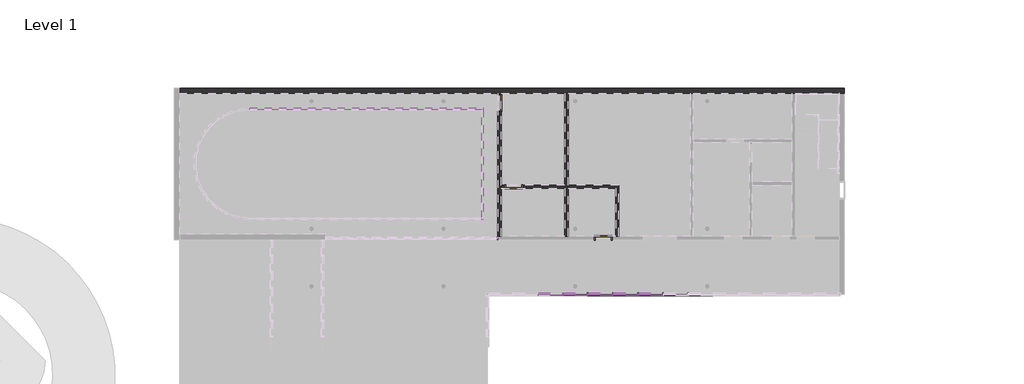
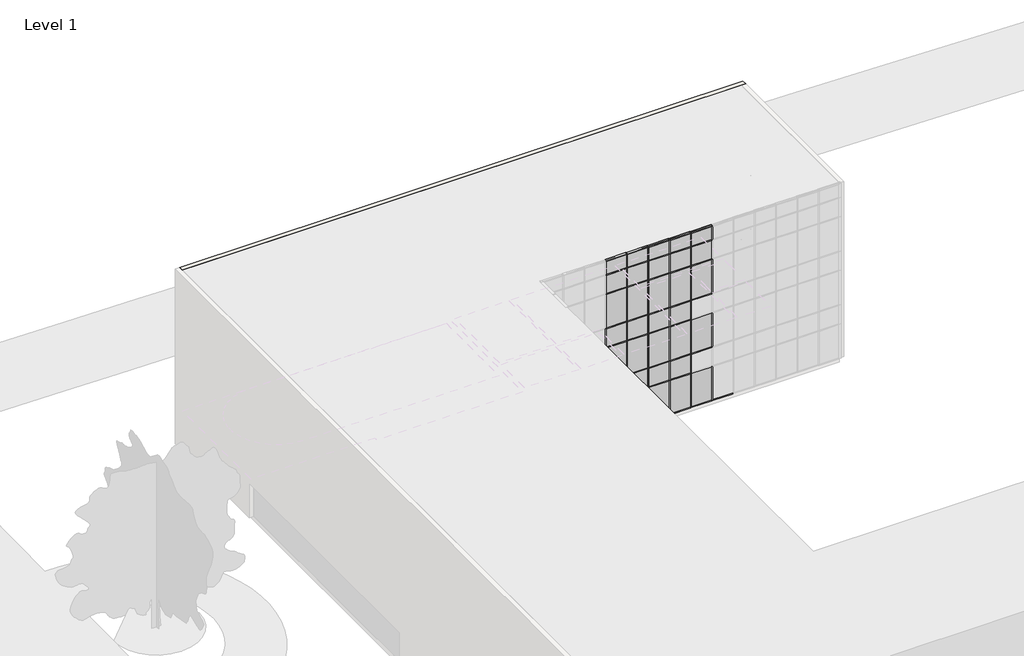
# One storey, part 15 of 27: 77 members, 34 plates, 7 walls, 3 doors.
"""IFC4 building model written with IfcOpenShell, lengths in millimetres."""

from ifc_helpers import new_model, si_unit, origin, origin_with_axes, place, context, project, spatial, polyline, outline, extrude, faceted_brep, transform, mapped, element, save
from components import door_0915mm_x_2134mm_2aa27b83, door_0915mm_x_2134mm_3fa07aa3, rectangular_mullion_50mm_x_150mm_550cda47, rectangular_mullion_50mm_x_150mm_0f59f38f, rectangular_mullion_50mm_x_150mm_22af440f, rectangular_mullion_50mm_x_150mm_5a36e067, rectangular_mullion_50mm_x_150mm_73e7bd4c, rectangular_mullion_50mm_x_150mm_bbc1c4ea, rectangular_mullion_50mm_x_150mm_36202a7c, rectangular_mullion_50mm_x_150mm_84717ec5, system_panel_glazed_6032f2be, system_panel_glazed_cd6fe77c, system_panel_solid_87c6c2f1, system_panel_solid_e0f9033a

model = new_model("IFC4")

# Units and contexts
model_context = context("Model", 3, world=origin())
ifc_project = project(units=[si_unit("LENGTHUNIT", "METRE", prefix="MILLI")], contexts=[model_context])

# Site, building, storey
site = spatial("IfcSite", under=ifc_project)
building = spatial("IfcBuilding", under=site)
storey = spatial("IfcBuildingStorey", under=building, Name="Level 1", Elevation=0.0)

# Doors
placement = place(None, origin())
door_0915mm_x_2134mm_shape = door_0915mm_x_2134mm_2aa27b83(model_context)
element("IfcDoor", 1, ObjectType="m-doors-hm-f1-a : 0915mm x 2134mm", at=placement, inside=storey, context=model_context, shape_type="MappedRepresentation", body=[
    mapped(door_0915mm_x_2134mm_shape, transform((8314.5010724, 30269.5799804, 0.0), x_axis=(0.0, -1.0, 0.0), y_axis=(1.0, 0.0, 0.0), z_axis=(0.0, 0.0, 1.0))),
])
element("IfcDoor", 2, ObjectType="m-doors-hm-f1-a : 0915mm x 2134mm", at=placement, inside=storey, context=model_context, shape_type="MappedRepresentation", body=[
    mapped(door_0915mm_x_2134mm_shape, transform((14023.5010724, 22787.5799804, 0.0), x_axis=(1.0, 0.0, 0.0), y_axis=(0.0, 1.0, 0.0), z_axis=(0.0, 0.0, 1.0))),
])
door_0915mm_x_2134mm_2_shape = door_0915mm_x_2134mm_3fa07aa3(model_context)
element("IfcDoor", 3, ObjectType="m-doors-hm-f1-a : 0915mm x 2134mm", at=placement, inside=storey, context=model_context, shape_type="MappedRepresentation", body=[
    mapped(door_0915mm_x_2134mm_2_shape, transform((8939.5010724, 25345.5799804, 0.0), x_axis=(1.0, 0.0, 0.0), y_axis=(0.0, 1.0, 0.0), z_axis=(0.0, 0.0, 1.0))),
])

# Members
rectangular_mullion_50mm_x_150mm_shape = rectangular_mullion_50mm_x_150mm_550cda47(model_context)
element("IfcMember", 4, ObjectType="Rectangular Mullion : 50mm x 150mm", at=placement, inside=storey, context=model_context, shape_type="MappedRepresentation", body=[
    mapped(rectangular_mullion_50mm_x_150mm_shape, transform((8047.5010724, 22595.5799804, 2235.0), x_axis=(1.0, 0.0, 0.0), y_axis=(0.0, 1.0, 0.0), z_axis=(0.0, 0.0, 1.0))),
])
rectangular_mullion_50mm_x_150mm_2_shape = rectangular_mullion_50mm_x_150mm_0f59f38f(model_context)
element("IfcMember", 5, ObjectType="Rectangular Mullion : 50mm x 150mm", at=placement, inside=storey, context=model_context, shape_type="MappedRepresentation", body=[
    mapped(rectangular_mullion_50mm_x_150mm_2_shape, transform((8047.5010724, 22595.5799804, 3550.0), x_axis=(1.0, 0.0, 0.0), y_axis=(0.0, 1.0, 0.0), z_axis=(0.0, 0.0, 1.0))),
])
rectangular_mullion_50mm_x_150mm_3_shape = rectangular_mullion_50mm_x_150mm_22af440f(model_context)
element("IfcMember", 6, ObjectType="Rectangular Mullion : 50mm x 150mm", at=placement, inside=storey, context=model_context, shape_type="MappedRepresentation", body=[
    mapped(rectangular_mullion_50mm_x_150mm_3_shape, transform((8047.5010724, 22595.5799804, 2135.0), x_axis=(1.0, 0.0, 0.0), y_axis=(0.0, 1.0, 0.0), z_axis=(0.0, 0.0, 1.0))),
])
rectangular_mullion_50mm_x_150mm_4_shape = rectangular_mullion_50mm_x_150mm_5a36e067(model_context)
element("IfcMember", 7, ObjectType="Rectangular Mullion : 50mm x 150mm", at=placement, inside=storey, context=model_context, shape_type="MappedRepresentation", body=[
    mapped(rectangular_mullion_50mm_x_150mm_4_shape, transform((13126.615026, 19414.8392059, 12400.0), x_axis=(0.0, 0.0, 1.0), y_axis=(0.0, -1.0, 0.0), z_axis=(1.0, 0.0, 0.0))),
])
element("IfcMember", 8, ObjectType="Rectangular Mullion : 50mm x 150mm", at=placement, inside=storey, context=model_context, shape_type="MappedRepresentation", body=[
    mapped(rectangular_mullion_50mm_x_150mm_4_shape, transform((14552.6435143, 19414.8392059, 12400.0), x_axis=(0.0, 0.0, 1.0), y_axis=(0.0, -1.0, 0.0), z_axis=(1.0, 0.0, 0.0))),
])
element("IfcMember", 9, ObjectType="Rectangular Mullion : 50mm x 150mm", at=placement, inside=storey, context=model_context, shape_type="MappedRepresentation", body=[
    mapped(rectangular_mullion_50mm_x_150mm_4_shape, transform((15978.6720027, 19414.8392059, 12400.0), x_axis=(0.0, 0.0, 1.0), y_axis=(0.0, -1.0, 0.0), z_axis=(1.0, 0.0, 0.0))),
])
element("IfcMember", 10, ObjectType="Rectangular Mullion : 50mm x 150mm", at=placement, inside=storey, context=model_context, shape_type="MappedRepresentation", body=[
    mapped(rectangular_mullion_50mm_x_150mm_4_shape, transform((17404.700491, 19414.8392059, 12400.0), x_axis=(0.0, 0.0, 1.0), y_axis=(0.0, -1.0, 0.0), z_axis=(1.0, 0.0, 0.0))),
])
element("IfcMember", 11, ObjectType="Rectangular Mullion : 50mm x 150mm", at=placement, inside=storey, context=model_context, shape_type="MappedRepresentation", body=[
    mapped(rectangular_mullion_50mm_x_150mm_4_shape, transform((18830.7289793, 19414.8392059, 12400.0), x_axis=(0.0, 0.0, 1.0), y_axis=(0.0, -1.0, 0.0), z_axis=(1.0, 0.0, 0.0))),
])
element("IfcMember", 12, ObjectType="Rectangular Mullion : 50mm x 150mm", at=placement, inside=storey, context=model_context, shape_type="MappedRepresentation", body=[
    mapped(rectangular_mullion_50mm_x_150mm_4_shape, transform((13176.615026, 19414.8392059, 0.0), x_axis=(0.0, 0.0, -1.0), y_axis=(0.0, -1.0, 0.0), z_axis=(-1.0, 0.0, 0.0))),
])
element("IfcMember", 13, ObjectType="Rectangular Mullion : 50mm x 150mm", at=placement, inside=storey, context=model_context, shape_type="MappedRepresentation", body=[
    mapped(rectangular_mullion_50mm_x_150mm_4_shape, transform((14602.6435143, 19414.8392059, 0.0), x_axis=(0.0, 0.0, -1.0), y_axis=(0.0, -1.0, 0.0), z_axis=(-1.0, 0.0, 0.0))),
])
element("IfcMember", 14, ObjectType="Rectangular Mullion : 50mm x 150mm", at=placement, inside=storey, context=model_context, shape_type="MappedRepresentation", body=[
    mapped(rectangular_mullion_50mm_x_150mm_4_shape, transform((16028.6720027, 19414.8392059, 0.0), x_axis=(0.0, 0.0, -1.0), y_axis=(0.0, -1.0, 0.0), z_axis=(-1.0, 0.0, 0.0))),
])
element("IfcMember", 15, ObjectType="Rectangular Mullion : 50mm x 150mm", at=placement, inside=storey, context=model_context, shape_type="MappedRepresentation", body=[
    mapped(rectangular_mullion_50mm_x_150mm_4_shape, transform((17454.700491, 19414.8392059, 0.0), x_axis=(0.0, 0.0, -1.0), y_axis=(0.0, -1.0, 0.0), z_axis=(-1.0, 0.0, 0.0))),
])
element("IfcMember", 16, ObjectType="Rectangular Mullion : 50mm x 150mm", at=placement, inside=storey, context=model_context, shape_type="MappedRepresentation", body=[
    mapped(rectangular_mullion_50mm_x_150mm_4_shape, transform((18880.7289793, 19414.8392059, 0.0), x_axis=(0.0, 0.0, -1.0), y_axis=(0.0, -1.0, 0.0), z_axis=(-1.0, 0.0, 0.0))),
])
rectangular_mullion_50mm_x_150mm_5_shape = rectangular_mullion_50mm_x_150mm_73e7bd4c(model_context)
element("IfcMember", 17, ObjectType="Rectangular Mullion : 50mm x 150mm", at=placement, inside=storey, context=model_context, shape_type="MappedRepresentation", body=[
    mapped(rectangular_mullion_50mm_x_150mm_5_shape, transform((13126.615026, 19414.8392059, 3800.0), x_axis=(0.0, 0.0, 1.0), y_axis=(0.0, -1.0, 0.0), z_axis=(1.0, 0.0, 0.0))),
])
element("IfcMember", 18, ObjectType="Rectangular Mullion : 50mm x 150mm", at=placement, inside=storey, context=model_context, shape_type="MappedRepresentation", body=[
    mapped(rectangular_mullion_50mm_x_150mm_5_shape, transform((14552.6435143, 19414.8392059, 3800.0), x_axis=(0.0, 0.0, 1.0), y_axis=(0.0, -1.0, 0.0), z_axis=(1.0, 0.0, 0.0))),
])
element("IfcMember", 19, ObjectType="Rectangular Mullion : 50mm x 150mm", at=placement, inside=storey, context=model_context, shape_type="MappedRepresentation", body=[
    mapped(rectangular_mullion_50mm_x_150mm_5_shape, transform((15978.6720027, 19414.8392059, 3800.0), x_axis=(0.0, 0.0, 1.0), y_axis=(0.0, -1.0, 0.0), z_axis=(1.0, 0.0, 0.0))),
])
element("IfcMember", 20, ObjectType="Rectangular Mullion : 50mm x 150mm", at=placement, inside=storey, context=model_context, shape_type="MappedRepresentation", body=[
    mapped(rectangular_mullion_50mm_x_150mm_5_shape, transform((17404.700491, 19414.8392059, 3800.0), x_axis=(0.0, 0.0, 1.0), y_axis=(0.0, -1.0, 0.0), z_axis=(1.0, 0.0, 0.0))),
])
element("IfcMember", 21, ObjectType="Rectangular Mullion : 50mm x 150mm", at=placement, inside=storey, context=model_context, shape_type="MappedRepresentation", body=[
    mapped(rectangular_mullion_50mm_x_150mm_5_shape, transform((18830.7289793, 19414.8392059, 3800.0), x_axis=(0.0, 0.0, 1.0), y_axis=(0.0, -1.0, 0.0), z_axis=(1.0, 0.0, 0.0))),
])
element("IfcMember", 22, ObjectType="Rectangular Mullion : 50mm x 150mm", at=placement, inside=storey, context=model_context, shape_type="MappedRepresentation", body=[
    mapped(rectangular_mullion_50mm_x_150mm_5_shape, transform((13126.615026, 19414.8392059, 7600.0), x_axis=(0.0, 0.0, 1.0), y_axis=(0.0, -1.0, 0.0), z_axis=(1.0, 0.0, 0.0))),
])
element("IfcMember", 23, ObjectType="Rectangular Mullion : 50mm x 150mm", at=placement, inside=storey, context=model_context, shape_type="MappedRepresentation", body=[
    mapped(rectangular_mullion_50mm_x_150mm_5_shape, transform((14552.6435143, 19414.8392059, 7600.0), x_axis=(0.0, 0.0, 1.0), y_axis=(0.0, -1.0, 0.0), z_axis=(1.0, 0.0, 0.0))),
])
element("IfcMember", 24, ObjectType="Rectangular Mullion : 50mm x 150mm", at=placement, inside=storey, context=model_context, shape_type="MappedRepresentation", body=[
    mapped(rectangular_mullion_50mm_x_150mm_5_shape, transform((15978.6720027, 19414.8392059, 7600.0), x_axis=(0.0, 0.0, 1.0), y_axis=(0.0, -1.0, 0.0), z_axis=(1.0, 0.0, 0.0))),
])
element("IfcMember", 25, ObjectType="Rectangular Mullion : 50mm x 150mm", at=placement, inside=storey, context=model_context, shape_type="MappedRepresentation", body=[
    mapped(rectangular_mullion_50mm_x_150mm_5_shape, transform((17404.700491, 19414.8392059, 7600.0), x_axis=(0.0, 0.0, 1.0), y_axis=(0.0, -1.0, 0.0), z_axis=(1.0, 0.0, 0.0))),
])
element("IfcMember", 26, ObjectType="Rectangular Mullion : 50mm x 150mm", at=placement, inside=storey, context=model_context, shape_type="MappedRepresentation", body=[
    mapped(rectangular_mullion_50mm_x_150mm_5_shape, transform((18830.7289793, 19414.8392059, 7600.0), x_axis=(0.0, 0.0, 1.0), y_axis=(0.0, -1.0, 0.0), z_axis=(1.0, 0.0, 0.0))),
])
element("IfcMember", 27, ObjectType="Rectangular Mullion : 50mm x 150mm", at=placement, inside=storey, context=model_context, shape_type="MappedRepresentation", body=[
    mapped(rectangular_mullion_50mm_x_150mm_5_shape, transform((13126.615026, 19414.8392059, 11400.0), x_axis=(0.0, 0.0, 1.0), y_axis=(0.0, -1.0, 0.0), z_axis=(1.0, 0.0, 0.0))),
])
element("IfcMember", 28, ObjectType="Rectangular Mullion : 50mm x 150mm", at=placement, inside=storey, context=model_context, shape_type="MappedRepresentation", body=[
    mapped(rectangular_mullion_50mm_x_150mm_5_shape, transform((14552.6435143, 19414.8392059, 11400.0), x_axis=(0.0, 0.0, 1.0), y_axis=(0.0, -1.0, 0.0), z_axis=(1.0, 0.0, 0.0))),
])
element("IfcMember", 29, ObjectType="Rectangular Mullion : 50mm x 150mm", at=placement, inside=storey, context=model_context, shape_type="MappedRepresentation", body=[
    mapped(rectangular_mullion_50mm_x_150mm_5_shape, transform((15978.6720027, 19414.8392059, 11400.0), x_axis=(0.0, 0.0, 1.0), y_axis=(0.0, -1.0, 0.0), z_axis=(1.0, 0.0, 0.0))),
])
element("IfcMember", 30, ObjectType="Rectangular Mullion : 50mm x 150mm", at=placement, inside=storey, context=model_context, shape_type="MappedRepresentation", body=[
    mapped(rectangular_mullion_50mm_x_150mm_5_shape, transform((17404.700491, 19414.8392059, 11400.0), x_axis=(0.0, 0.0, 1.0), y_axis=(0.0, -1.0, 0.0), z_axis=(1.0, 0.0, 0.0))),
])
element("IfcMember", 31, ObjectType="Rectangular Mullion : 50mm x 150mm", at=placement, inside=storey, context=model_context, shape_type="MappedRepresentation", body=[
    mapped(rectangular_mullion_50mm_x_150mm_5_shape, transform((18830.7289793, 19414.8392059, 11400.0), x_axis=(0.0, 0.0, 1.0), y_axis=(0.0, -1.0, 0.0), z_axis=(1.0, 0.0, 0.0))),
])
element("IfcMember", 32, ObjectType="Rectangular Mullion : 50mm x 150mm", at=placement, inside=storey, context=model_context, shape_type="MappedRepresentation", body=[
    mapped(rectangular_mullion_50mm_x_150mm_5_shape, transform((13126.615026, 19414.8392059, 10040.0), x_axis=(0.0, 0.0, 1.0), y_axis=(0.0, -1.0, 0.0), z_axis=(1.0, 0.0, 0.0))),
])
element("IfcMember", 33, ObjectType="Rectangular Mullion : 50mm x 150mm", at=placement, inside=storey, context=model_context, shape_type="MappedRepresentation", body=[
    mapped(rectangular_mullion_50mm_x_150mm_5_shape, transform((14552.6435143, 19414.8392059, 10040.0), x_axis=(0.0, 0.0, 1.0), y_axis=(0.0, -1.0, 0.0), z_axis=(1.0, 0.0, 0.0))),
])
element("IfcMember", 34, ObjectType="Rectangular Mullion : 50mm x 150mm", at=placement, inside=storey, context=model_context, shape_type="MappedRepresentation", body=[
    mapped(rectangular_mullion_50mm_x_150mm_5_shape, transform((15978.6720027, 19414.8392059, 10040.0), x_axis=(0.0, 0.0, 1.0), y_axis=(0.0, -1.0, 0.0), z_axis=(1.0, 0.0, 0.0))),
])
element("IfcMember", 35, ObjectType="Rectangular Mullion : 50mm x 150mm", at=placement, inside=storey, context=model_context, shape_type="MappedRepresentation", body=[
    mapped(rectangular_mullion_50mm_x_150mm_5_shape, transform((17404.700491, 19414.8392059, 10040.0), x_axis=(0.0, 0.0, 1.0), y_axis=(0.0, -1.0, 0.0), z_axis=(1.0, 0.0, 0.0))),
])
element("IfcMember", 36, ObjectType="Rectangular Mullion : 50mm x 150mm", at=placement, inside=storey, context=model_context, shape_type="MappedRepresentation", body=[
    mapped(rectangular_mullion_50mm_x_150mm_5_shape, transform((18830.7289793, 19414.8392059, 10040.0), x_axis=(0.0, 0.0, 1.0), y_axis=(0.0, -1.0, 0.0), z_axis=(1.0, 0.0, 0.0))),
])
element("IfcMember", 37, ObjectType="Rectangular Mullion : 50mm x 150mm", at=placement, inside=storey, context=model_context, shape_type="MappedRepresentation", body=[
    mapped(rectangular_mullion_50mm_x_150mm_5_shape, transform((11700.5865377, 19414.8392059, 6240.0), x_axis=(0.0, 0.0, 1.0), y_axis=(0.0, -1.0, 0.0), z_axis=(1.0, 0.0, 0.0))),
])
element("IfcMember", 38, ObjectType="Rectangular Mullion : 50mm x 150mm", at=placement, inside=storey, context=model_context, shape_type="MappedRepresentation", body=[
    mapped(rectangular_mullion_50mm_x_150mm_5_shape, transform((13126.615026, 19414.8392059, 6240.0), x_axis=(0.0, 0.0, 1.0), y_axis=(0.0, -1.0, 0.0), z_axis=(1.0, 0.0, 0.0))),
])
element("IfcMember", 39, ObjectType="Rectangular Mullion : 50mm x 150mm", at=placement, inside=storey, context=model_context, shape_type="MappedRepresentation", body=[
    mapped(rectangular_mullion_50mm_x_150mm_5_shape, transform((14552.6435143, 19414.8392059, 6240.0), x_axis=(0.0, 0.0, 1.0), y_axis=(0.0, -1.0, 0.0), z_axis=(1.0, 0.0, 0.0))),
])
element("IfcMember", 40, ObjectType="Rectangular Mullion : 50mm x 150mm", at=placement, inside=storey, context=model_context, shape_type="MappedRepresentation", body=[
    mapped(rectangular_mullion_50mm_x_150mm_5_shape, transform((15978.6720027, 19414.8392059, 6240.0), x_axis=(0.0, 0.0, 1.0), y_axis=(0.0, -1.0, 0.0), z_axis=(1.0, 0.0, 0.0))),
])
element("IfcMember", 41, ObjectType="Rectangular Mullion : 50mm x 150mm", at=placement, inside=storey, context=model_context, shape_type="MappedRepresentation", body=[
    mapped(rectangular_mullion_50mm_x_150mm_5_shape, transform((17404.700491, 19414.8392059, 6240.0), x_axis=(0.0, 0.0, 1.0), y_axis=(0.0, -1.0, 0.0), z_axis=(1.0, 0.0, 0.0))),
])
element("IfcMember", 42, ObjectType="Rectangular Mullion : 50mm x 150mm", at=placement, inside=storey, context=model_context, shape_type="MappedRepresentation", body=[
    mapped(rectangular_mullion_50mm_x_150mm_5_shape, transform((11700.5865377, 19414.8392059, 2440.0), x_axis=(0.0, 0.0, 1.0), y_axis=(0.0, -1.0, 0.0), z_axis=(1.0, 0.0, 0.0))),
])
element("IfcMember", 43, ObjectType="Rectangular Mullion : 50mm x 150mm", at=placement, inside=storey, context=model_context, shape_type="MappedRepresentation", body=[
    mapped(rectangular_mullion_50mm_x_150mm_5_shape, transform((13126.615026, 19414.8392059, 2440.0), x_axis=(0.0, 0.0, 1.0), y_axis=(0.0, -1.0, 0.0), z_axis=(1.0, 0.0, 0.0))),
])
element("IfcMember", 44, ObjectType="Rectangular Mullion : 50mm x 150mm", at=placement, inside=storey, context=model_context, shape_type="MappedRepresentation", body=[
    mapped(rectangular_mullion_50mm_x_150mm_5_shape, transform((14552.6435143, 19414.8392059, 2440.0), x_axis=(0.0, 0.0, 1.0), y_axis=(0.0, -1.0, 0.0), z_axis=(1.0, 0.0, 0.0))),
])
element("IfcMember", 45, ObjectType="Rectangular Mullion : 50mm x 150mm", at=placement, inside=storey, context=model_context, shape_type="MappedRepresentation", body=[
    mapped(rectangular_mullion_50mm_x_150mm_5_shape, transform((15978.6720027, 19414.8392059, 2440.0), x_axis=(0.0, 0.0, 1.0), y_axis=(0.0, -1.0, 0.0), z_axis=(1.0, 0.0, 0.0))),
])
element("IfcMember", 46, ObjectType="Rectangular Mullion : 50mm x 150mm", at=placement, inside=storey, context=model_context, shape_type="MappedRepresentation", body=[
    mapped(rectangular_mullion_50mm_x_150mm_5_shape, transform((17404.700491, 19414.8392059, 2440.0), x_axis=(0.0, 0.0, 1.0), y_axis=(0.0, -1.0, 0.0), z_axis=(1.0, 0.0, 0.0))),
])
rectangular_mullion_50mm_x_150mm_6_shape = rectangular_mullion_50mm_x_150mm_bbc1c4ea(model_context)
element("IfcMember", 47, ObjectType="Rectangular Mullion : 50mm x 150mm", at=placement, inside=storey, context=model_context, shape_type="MappedRepresentation", body=[
    mapped(rectangular_mullion_50mm_x_150mm_6_shape, transform((13151.615026, 19414.8392059, 11400.0), x_axis=(1.0, 0.0, 0.0), y_axis=(0.0, -1.0, 0.0), z_axis=(0.0, 0.0, -1.0))),
])
element("IfcMember", 48, ObjectType="Rectangular Mullion : 50mm x 150mm", at=placement, inside=storey, context=model_context, shape_type="MappedRepresentation", body=[
    mapped(rectangular_mullion_50mm_x_150mm_6_shape, transform((14577.6435143, 19414.8392059, 11400.0), x_axis=(1.0, 0.0, 0.0), y_axis=(0.0, -1.0, 0.0), z_axis=(0.0, 0.0, -1.0))),
])
element("IfcMember", 49, ObjectType="Rectangular Mullion : 50mm x 150mm", at=placement, inside=storey, context=model_context, shape_type="MappedRepresentation", body=[
    mapped(rectangular_mullion_50mm_x_150mm_6_shape, transform((16003.6720027, 19414.8392059, 11400.0), x_axis=(1.0, 0.0, 0.0), y_axis=(0.0, -1.0, 0.0), z_axis=(0.0, 0.0, -1.0))),
])
element("IfcMember", 50, ObjectType="Rectangular Mullion : 50mm x 150mm", at=placement, inside=storey, context=model_context, shape_type="MappedRepresentation", body=[
    mapped(rectangular_mullion_50mm_x_150mm_6_shape, transform((17429.700491, 19414.8392059, 11400.0), x_axis=(1.0, 0.0, 0.0), y_axis=(0.0, -1.0, 0.0), z_axis=(0.0, 0.0, -1.0))),
])
element("IfcMember", 51, ObjectType="Rectangular Mullion : 50mm x 150mm", at=placement, inside=storey, context=model_context, shape_type="MappedRepresentation", body=[
    mapped(rectangular_mullion_50mm_x_150mm_6_shape, transform((18855.7289793, 19414.8392059, 11400.0), x_axis=(1.0, 0.0, 0.0), y_axis=(0.0, -1.0, 0.0), z_axis=(0.0, 0.0, -1.0))),
])
rectangular_mullion_50mm_x_150mm_7_shape = rectangular_mullion_50mm_x_150mm_36202a7c(model_context)
element("IfcMember", 52, ObjectType="Rectangular Mullion : 50mm x 150mm", at=placement, inside=storey, context=model_context, shape_type="MappedRepresentation", body=[
    mapped(rectangular_mullion_50mm_x_150mm_7_shape, transform((13151.615026, 19414.8392059, 0.0), x_axis=(1.0, 0.0, 0.0), y_axis=(0.0, -1.0, 0.0), z_axis=(0.0, 0.0, -1.0))),
])
element("IfcMember", 53, ObjectType="Rectangular Mullion : 50mm x 150mm", at=placement, inside=storey, context=model_context, shape_type="MappedRepresentation", body=[
    mapped(rectangular_mullion_50mm_x_150mm_7_shape, transform((14577.6435143, 19414.8392059, 0.0), x_axis=(1.0, 0.0, 0.0), y_axis=(0.0, -1.0, 0.0), z_axis=(0.0, 0.0, -1.0))),
])
element("IfcMember", 54, ObjectType="Rectangular Mullion : 50mm x 150mm", at=placement, inside=storey, context=model_context, shape_type="MappedRepresentation", body=[
    mapped(rectangular_mullion_50mm_x_150mm_7_shape, transform((16003.6720027, 19414.8392059, 0.0), x_axis=(1.0, 0.0, 0.0), y_axis=(0.0, -1.0, 0.0), z_axis=(0.0, 0.0, -1.0))),
])
element("IfcMember", 55, ObjectType="Rectangular Mullion : 50mm x 150mm", at=placement, inside=storey, context=model_context, shape_type="MappedRepresentation", body=[
    mapped(rectangular_mullion_50mm_x_150mm_7_shape, transform((17429.700491, 19414.8392059, 0.0), x_axis=(1.0, 0.0, 0.0), y_axis=(0.0, -1.0, 0.0), z_axis=(0.0, 0.0, -1.0))),
])
element("IfcMember", 56, ObjectType="Rectangular Mullion : 50mm x 150mm", at=placement, inside=storey, context=model_context, shape_type="MappedRepresentation", body=[
    mapped(rectangular_mullion_50mm_x_150mm_7_shape, transform((18855.7289793, 19414.8392059, 0.0), x_axis=(1.0, 0.0, 0.0), y_axis=(0.0, -1.0, 0.0), z_axis=(0.0, 0.0, -1.0))),
])
rectangular_mullion_50mm_x_150mm_8_shape = rectangular_mullion_50mm_x_150mm_84717ec5(model_context)
element("IfcMember", 57, ObjectType="Rectangular Mullion : 50mm x 150mm", at=placement, inside=storey, context=model_context, shape_type="MappedRepresentation", body=[
    mapped(rectangular_mullion_50mm_x_150mm_8_shape, transform((13151.615026, 19414.8392059, 10040.0), x_axis=(1.0, 0.0, 0.0), y_axis=(0.0, -1.0, 0.0), z_axis=(0.0, 0.0, -1.0))),
])
element("IfcMember", 58, ObjectType="Rectangular Mullion : 50mm x 150mm", at=placement, inside=storey, context=model_context, shape_type="MappedRepresentation", body=[
    mapped(rectangular_mullion_50mm_x_150mm_8_shape, transform((14577.6435143, 19414.8392059, 10040.0), x_axis=(1.0, 0.0, 0.0), y_axis=(0.0, -1.0, 0.0), z_axis=(0.0, 0.0, -1.0))),
])
element("IfcMember", 59, ObjectType="Rectangular Mullion : 50mm x 150mm", at=placement, inside=storey, context=model_context, shape_type="MappedRepresentation", body=[
    mapped(rectangular_mullion_50mm_x_150mm_8_shape, transform((16003.6720027, 19414.8392059, 10040.0), x_axis=(1.0, 0.0, 0.0), y_axis=(0.0, -1.0, 0.0), z_axis=(0.0, 0.0, -1.0))),
])
element("IfcMember", 60, ObjectType="Rectangular Mullion : 50mm x 150mm", at=placement, inside=storey, context=model_context, shape_type="MappedRepresentation", body=[
    mapped(rectangular_mullion_50mm_x_150mm_8_shape, transform((17429.700491, 19414.8392059, 10040.0), x_axis=(1.0, 0.0, 0.0), y_axis=(0.0, -1.0, 0.0), z_axis=(0.0, 0.0, -1.0))),
])
element("IfcMember", 61, ObjectType="Rectangular Mullion : 50mm x 150mm", at=placement, inside=storey, context=model_context, shape_type="MappedRepresentation", body=[
    mapped(rectangular_mullion_50mm_x_150mm_8_shape, transform((11725.5865377, 19414.8392059, 6240.0), x_axis=(1.0, 0.0, 0.0), y_axis=(0.0, -1.0, 0.0), z_axis=(0.0, 0.0, -1.0))),
])
element("IfcMember", 62, ObjectType="Rectangular Mullion : 50mm x 150mm", at=placement, inside=storey, context=model_context, shape_type="MappedRepresentation", body=[
    mapped(rectangular_mullion_50mm_x_150mm_8_shape, transform((13151.615026, 19414.8392059, 6240.0), x_axis=(1.0, 0.0, 0.0), y_axis=(0.0, -1.0, 0.0), z_axis=(0.0, 0.0, -1.0))),
])
element("IfcMember", 63, ObjectType="Rectangular Mullion : 50mm x 150mm", at=placement, inside=storey, context=model_context, shape_type="MappedRepresentation", body=[
    mapped(rectangular_mullion_50mm_x_150mm_8_shape, transform((14577.6435143, 19414.8392059, 6240.0), x_axis=(1.0, 0.0, 0.0), y_axis=(0.0, -1.0, 0.0), z_axis=(0.0, 0.0, -1.0))),
])
element("IfcMember", 64, ObjectType="Rectangular Mullion : 50mm x 150mm", at=placement, inside=storey, context=model_context, shape_type="MappedRepresentation", body=[
    mapped(rectangular_mullion_50mm_x_150mm_8_shape, transform((16003.6720027, 19414.8392059, 6240.0), x_axis=(1.0, 0.0, 0.0), y_axis=(0.0, -1.0, 0.0), z_axis=(0.0, 0.0, -1.0))),
])
element("IfcMember", 65, ObjectType="Rectangular Mullion : 50mm x 150mm", at=placement, inside=storey, context=model_context, shape_type="MappedRepresentation", body=[
    mapped(rectangular_mullion_50mm_x_150mm_8_shape, transform((17429.700491, 19414.8392059, 6240.0), x_axis=(1.0, 0.0, 0.0), y_axis=(0.0, -1.0, 0.0), z_axis=(0.0, 0.0, -1.0))),
])
element("IfcMember", 66, ObjectType="Rectangular Mullion : 50mm x 150mm", at=placement, inside=storey, context=model_context, shape_type="MappedRepresentation", body=[
    mapped(rectangular_mullion_50mm_x_150mm_8_shape, transform((11725.5865377, 19414.8392059, 2440.0), x_axis=(1.0, 0.0, 0.0), y_axis=(0.0, -1.0, 0.0), z_axis=(0.0, 0.0, -1.0))),
])
element("IfcMember", 67, ObjectType="Rectangular Mullion : 50mm x 150mm", at=placement, inside=storey, context=model_context, shape_type="MappedRepresentation", body=[
    mapped(rectangular_mullion_50mm_x_150mm_8_shape, transform((13151.615026, 19414.8392059, 2440.0), x_axis=(1.0, 0.0, 0.0), y_axis=(0.0, -1.0, 0.0), z_axis=(0.0, 0.0, -1.0))),
])
element("IfcMember", 68, ObjectType="Rectangular Mullion : 50mm x 150mm", at=placement, inside=storey, context=model_context, shape_type="MappedRepresentation", body=[
    mapped(rectangular_mullion_50mm_x_150mm_8_shape, transform((14577.6435143, 19414.8392059, 2440.0), x_axis=(1.0, 0.0, 0.0), y_axis=(0.0, -1.0, 0.0), z_axis=(0.0, 0.0, -1.0))),
])
element("IfcMember", 69, ObjectType="Rectangular Mullion : 50mm x 150mm", at=placement, inside=storey, context=model_context, shape_type="MappedRepresentation", body=[
    mapped(rectangular_mullion_50mm_x_150mm_8_shape, transform((16003.6720027, 19414.8392059, 2440.0), x_axis=(1.0, 0.0, 0.0), y_axis=(0.0, -1.0, 0.0), z_axis=(0.0, 0.0, -1.0))),
])
element("IfcMember", 70, ObjectType="Rectangular Mullion : 50mm x 150mm", at=placement, inside=storey, context=model_context, shape_type="MappedRepresentation", body=[
    mapped(rectangular_mullion_50mm_x_150mm_8_shape, transform((17429.700491, 19414.8392059, 2440.0), x_axis=(1.0, 0.0, 0.0), y_axis=(0.0, -1.0, 0.0), z_axis=(0.0, 0.0, -1.0))),
])
element("IfcMember", 71, ObjectType="Rectangular Mullion : 50mm x 150mm", at=placement, inside=storey, context=model_context, shape_type="MappedRepresentation", body=[
    mapped(rectangular_mullion_50mm_x_150mm_7_shape, transform((13151.615026, 19414.8392059, 3800.0), x_axis=(1.0, 0.0, 0.0), y_axis=(0.0, -1.0, 0.0), z_axis=(0.0, 0.0, -1.0))),
])
element("IfcMember", 72, ObjectType="Rectangular Mullion : 50mm x 150mm", at=placement, inside=storey, context=model_context, shape_type="MappedRepresentation", body=[
    mapped(rectangular_mullion_50mm_x_150mm_7_shape, transform((14577.6435143, 19414.8392059, 3800.0), x_axis=(1.0, 0.0, 0.0), y_axis=(0.0, -1.0, 0.0), z_axis=(0.0, 0.0, -1.0))),
])
element("IfcMember", 73, ObjectType="Rectangular Mullion : 50mm x 150mm", at=placement, inside=storey, context=model_context, shape_type="MappedRepresentation", body=[
    mapped(rectangular_mullion_50mm_x_150mm_7_shape, transform((16003.6720027, 19414.8392059, 3800.0), x_axis=(1.0, 0.0, 0.0), y_axis=(0.0, -1.0, 0.0), z_axis=(0.0, 0.0, -1.0))),
])
element("IfcMember", 74, ObjectType="Rectangular Mullion : 50mm x 150mm", at=placement, inside=storey, context=model_context, shape_type="MappedRepresentation", body=[
    mapped(rectangular_mullion_50mm_x_150mm_7_shape, transform((17429.700491, 19414.8392059, 3800.0), x_axis=(1.0, 0.0, 0.0), y_axis=(0.0, -1.0, 0.0), z_axis=(0.0, 0.0, -1.0))),
])
element("IfcMember", 75, ObjectType="Rectangular Mullion : 50mm x 150mm", at=placement, inside=storey, context=model_context, shape_type="MappedRepresentation", body=[
    mapped(rectangular_mullion_50mm_x_150mm_7_shape, transform((18855.7289793, 19414.8392059, 3800.0), x_axis=(1.0, 0.0, 0.0), y_axis=(0.0, -1.0, 0.0), z_axis=(0.0, 0.0, -1.0))),
])
element("IfcMember", 76, ObjectType="Rectangular Mullion : 50mm x 150mm", at=placement, inside=storey, context=model_context, shape_type="MappedRepresentation", body=[
    mapped(rectangular_mullion_50mm_x_150mm_7_shape, transform((13151.615026, 19414.8392059, 7600.0), x_axis=(1.0, 0.0, 0.0), y_axis=(0.0, -1.0, 0.0), z_axis=(0.0, 0.0, -1.0))),
])
element("IfcMember", 77, ObjectType="Rectangular Mullion : 50mm x 150mm", at=placement, inside=storey, context=model_context, shape_type="MappedRepresentation", body=[
    mapped(rectangular_mullion_50mm_x_150mm_7_shape, transform((14577.6435143, 19414.8392059, 7600.0), x_axis=(1.0, 0.0, 0.0), y_axis=(0.0, -1.0, 0.0), z_axis=(0.0, 0.0, -1.0))),
])
element("IfcMember", 78, ObjectType="Rectangular Mullion : 50mm x 150mm", at=placement, inside=storey, context=model_context, shape_type="MappedRepresentation", body=[
    mapped(rectangular_mullion_50mm_x_150mm_7_shape, transform((16003.6720027, 19414.8392059, 7600.0), x_axis=(1.0, 0.0, 0.0), y_axis=(0.0, -1.0, 0.0), z_axis=(0.0, 0.0, -1.0))),
])
element("IfcMember", 79, ObjectType="Rectangular Mullion : 50mm x 150mm", at=placement, inside=storey, context=model_context, shape_type="MappedRepresentation", body=[
    mapped(rectangular_mullion_50mm_x_150mm_7_shape, transform((17429.700491, 19414.8392059, 7600.0), x_axis=(1.0, 0.0, 0.0), y_axis=(0.0, -1.0, 0.0), z_axis=(0.0, 0.0, -1.0))),
])
element("IfcMember", 80, ObjectType="Rectangular Mullion : 50mm x 150mm", at=placement, inside=storey, context=model_context, shape_type="MappedRepresentation", body=[
    mapped(rectangular_mullion_50mm_x_150mm_7_shape, transform((18855.7289793, 19414.8392059, 7600.0), x_axis=(1.0, 0.0, 0.0), y_axis=(0.0, -1.0, 0.0), z_axis=(0.0, 0.0, -1.0))),
])

# Plates
system_panel_glazed_shape = system_panel_glazed_6032f2be(model_context)
element("IfcPlate", 81, ObjectType="System Panel : Glazed", at=placement, inside=storey, context=model_context, shape_type="MappedRepresentation", body=[
    mapped(system_panel_glazed_shape, transform((12438.6007818, 19414.8392059, 3825.0), x_axis=(1.0, 0.0, 0.0), y_axis=(0.0, 1.0, 0.0), z_axis=(0.0, 0.0, 1.0))),
])
element("IfcPlate", 82, ObjectType="System Panel : Glazed", at=placement, inside=storey, context=model_context, shape_type="MappedRepresentation", body=[
    mapped(system_panel_glazed_shape, transform((13864.6292702, 19414.8392059, 3825.0), x_axis=(1.0, 0.0, 0.0), y_axis=(0.0, 1.0, 0.0), z_axis=(0.0, 0.0, 1.0))),
])
element("IfcPlate", 83, ObjectType="System Panel : Glazed", at=placement, inside=storey, context=model_context, shape_type="MappedRepresentation", body=[
    mapped(system_panel_glazed_shape, transform((15290.6577585, 19414.8392059, 3825.0), x_axis=(1.0, 0.0, 0.0), y_axis=(0.0, 1.0, 0.0), z_axis=(0.0, 0.0, 1.0))),
])
element("IfcPlate", 84, ObjectType="System Panel : Glazed", at=placement, inside=storey, context=model_context, shape_type="MappedRepresentation", body=[
    mapped(system_panel_glazed_shape, transform((16716.6862468, 19414.8392059, 3825.0), x_axis=(1.0, 0.0, 0.0), y_axis=(0.0, 1.0, 0.0), z_axis=(0.0, 0.0, 1.0))),
])
element("IfcPlate", 85, ObjectType="System Panel : Glazed", at=placement, inside=storey, context=model_context, shape_type="MappedRepresentation", body=[
    mapped(system_panel_glazed_shape, transform((18142.7147352, 19414.8392059, 3825.0), x_axis=(1.0, 0.0, 0.0), y_axis=(0.0, 1.0, 0.0), z_axis=(0.0, 0.0, 1.0))),
])
element("IfcPlate", 86, ObjectType="System Panel : Glazed", at=placement, inside=storey, context=model_context, shape_type="MappedRepresentation", body=[
    mapped(system_panel_glazed_shape, transform((12438.6007818, 19414.8392059, 7625.0), x_axis=(1.0, 0.0, 0.0), y_axis=(0.0, 1.0, 0.0), z_axis=(0.0, 0.0, 1.0))),
])
element("IfcPlate", 87, ObjectType="System Panel : Glazed", at=placement, inside=storey, context=model_context, shape_type="MappedRepresentation", body=[
    mapped(system_panel_glazed_shape, transform((13864.6292702, 19414.8392059, 7625.0), x_axis=(1.0, 0.0, 0.0), y_axis=(0.0, 1.0, 0.0), z_axis=(0.0, 0.0, 1.0))),
])
element("IfcPlate", 88, ObjectType="System Panel : Glazed", at=placement, inside=storey, context=model_context, shape_type="MappedRepresentation", body=[
    mapped(system_panel_glazed_shape, transform((15290.6577585, 19414.8392059, 7625.0), x_axis=(1.0, 0.0, 0.0), y_axis=(0.0, 1.0, 0.0), z_axis=(0.0, 0.0, 1.0))),
])
element("IfcPlate", 89, ObjectType="System Panel : Glazed", at=placement, inside=storey, context=model_context, shape_type="MappedRepresentation", body=[
    mapped(system_panel_glazed_shape, transform((16716.6862468, 19414.8392059, 7625.0), x_axis=(1.0, 0.0, 0.0), y_axis=(0.0, 1.0, 0.0), z_axis=(0.0, 0.0, 1.0))),
])
element("IfcPlate", 90, ObjectType="System Panel : Glazed", at=placement, inside=storey, context=model_context, shape_type="MappedRepresentation", body=[
    mapped(system_panel_glazed_shape, transform((18142.7147352, 19414.8392059, 7625.0), x_axis=(1.0, 0.0, 0.0), y_axis=(0.0, 1.0, 0.0), z_axis=(0.0, 0.0, 1.0))),
])
system_panel_glazed_2_shape = system_panel_glazed_cd6fe77c(model_context)
element("IfcPlate", 91, ObjectType="System Panel : Glazed", at=placement, inside=storey, context=model_context, shape_type="MappedRepresentation", body=[
    mapped(system_panel_glazed_2_shape, transform((12438.6007818, 19414.8392059, 50.0), x_axis=(1.0, 0.0, 0.0), y_axis=(0.0, 1.0, 0.0), z_axis=(0.0, 0.0, 1.0))),
])
element("IfcPlate", 92, ObjectType="System Panel : Glazed", at=placement, inside=storey, context=model_context, shape_type="MappedRepresentation", body=[
    mapped(system_panel_glazed_2_shape, transform((13864.6292702, 19414.8392059, 50.0), x_axis=(1.0, 0.0, 0.0), y_axis=(0.0, 1.0, 0.0), z_axis=(0.0, 0.0, 1.0))),
])
element("IfcPlate", 93, ObjectType="System Panel : Glazed", at=placement, inside=storey, context=model_context, shape_type="MappedRepresentation", body=[
    mapped(system_panel_glazed_2_shape, transform((15290.6577585, 19414.8392059, 50.0), x_axis=(1.0, 0.0, 0.0), y_axis=(0.0, 1.0, 0.0), z_axis=(0.0, 0.0, 1.0))),
])
element("IfcPlate", 94, ObjectType="System Panel : Glazed", at=placement, inside=storey, context=model_context, shape_type="MappedRepresentation", body=[
    mapped(system_panel_glazed_2_shape, transform((16716.6862468, 19414.8392059, 50.0), x_axis=(1.0, 0.0, 0.0), y_axis=(0.0, 1.0, 0.0), z_axis=(0.0, 0.0, 1.0))),
])
element("IfcPlate", 95, ObjectType="System Panel : Glazed", at=placement, inside=storey, context=model_context, shape_type="MappedRepresentation", body=[
    mapped(system_panel_glazed_2_shape, transform((18142.7147352, 19414.8392059, 50.0), x_axis=(1.0, 0.0, 0.0), y_axis=(0.0, 1.0, 0.0), z_axis=(0.0, 0.0, 1.0))),
])
system_panel_solid_shape = system_panel_solid_87c6c2f1(model_context)
element("IfcPlate", 96, ObjectType="System Panel : Solid", at=placement, inside=storey, context=model_context, shape_type="MappedRepresentation", body=[
    mapped(system_panel_solid_shape, transform((12438.6007818, 19414.8392059, 11425.0), x_axis=(1.0, 0.0, 0.0), y_axis=(0.0, 1.0, 0.0), z_axis=(0.0, 0.0, 1.0))),
])
element("IfcPlate", 97, ObjectType="System Panel : Solid", at=placement, inside=storey, context=model_context, shape_type="MappedRepresentation", body=[
    mapped(system_panel_solid_shape, transform((13864.6292702, 19414.8392059, 11425.0), x_axis=(1.0, 0.0, 0.0), y_axis=(0.0, 1.0, 0.0), z_axis=(0.0, 0.0, 1.0))),
])
element("IfcPlate", 98, ObjectType="System Panel : Solid", at=placement, inside=storey, context=model_context, shape_type="MappedRepresentation", body=[
    mapped(system_panel_solid_shape, transform((15290.6577585, 19414.8392059, 11425.0), x_axis=(1.0, 0.0, 0.0), y_axis=(0.0, 1.0, 0.0), z_axis=(0.0, 0.0, 1.0))),
])
element("IfcPlate", 99, ObjectType="System Panel : Solid", at=placement, inside=storey, context=model_context, shape_type="MappedRepresentation", body=[
    mapped(system_panel_solid_shape, transform((16716.6862468, 19414.8392059, 11425.0), x_axis=(1.0, 0.0, 0.0), y_axis=(0.0, 1.0, 0.0), z_axis=(0.0, 0.0, 1.0))),
])
element("IfcPlate", 100, ObjectType="System Panel : Solid", at=placement, inside=storey, context=model_context, shape_type="MappedRepresentation", body=[
    mapped(system_panel_solid_shape, transform((18142.7147352, 19414.8392059, 11425.0), x_axis=(1.0, 0.0, 0.0), y_axis=(0.0, 1.0, 0.0), z_axis=(0.0, 0.0, 1.0))),
])
system_panel_solid_2_shape = system_panel_solid_e0f9033a(model_context)
element("IfcPlate", 101, ObjectType="System Panel : Solid", at=placement, inside=storey, context=model_context, shape_type="MappedRepresentation", body=[
    mapped(system_panel_solid_2_shape, transform((12438.6007818, 19414.8392059, 10065.0), x_axis=(1.0, 0.0, 0.0), y_axis=(0.0, 1.0, 0.0), z_axis=(0.0, 0.0, 1.0))),
])
element("IfcPlate", 102, ObjectType="System Panel : Solid", at=placement, inside=storey, context=model_context, shape_type="MappedRepresentation", body=[
    mapped(system_panel_solid_2_shape, transform((13864.6292702, 19414.8392059, 10065.0), x_axis=(1.0, 0.0, 0.0), y_axis=(0.0, 1.0, 0.0), z_axis=(0.0, 0.0, 1.0))),
])
element("IfcPlate", 103, ObjectType="System Panel : Solid", at=placement, inside=storey, context=model_context, shape_type="MappedRepresentation", body=[
    mapped(system_panel_solid_2_shape, transform((15290.6577585, 19414.8392059, 10065.0), x_axis=(1.0, 0.0, 0.0), y_axis=(0.0, 1.0, 0.0), z_axis=(0.0, 0.0, 1.0))),
])
element("IfcPlate", 104, ObjectType="System Panel : Solid", at=placement, inside=storey, context=model_context, shape_type="MappedRepresentation", body=[
    mapped(system_panel_solid_2_shape, transform((16716.6862468, 19414.8392059, 10065.0), x_axis=(1.0, 0.0, 0.0), y_axis=(0.0, 1.0, 0.0), z_axis=(0.0, 0.0, 1.0))),
])
element("IfcPlate", 105, ObjectType="System Panel : Solid", at=placement, inside=storey, context=model_context, shape_type="MappedRepresentation", body=[
    mapped(system_panel_solid_2_shape, transform((18142.7147352, 19414.8392059, 10065.0), x_axis=(1.0, 0.0, 0.0), y_axis=(0.0, 1.0, 0.0), z_axis=(0.0, 0.0, 1.0))),
])
element("IfcPlate", 106, ObjectType="System Panel : Solid", at=placement, inside=storey, context=model_context, shape_type="MappedRepresentation", body=[
    mapped(system_panel_solid_2_shape, transform((12438.6007818, 19414.8392059, 6265.0), x_axis=(1.0, 0.0, 0.0), y_axis=(0.0, 1.0, 0.0), z_axis=(0.0, 0.0, 1.0))),
])
element("IfcPlate", 107, ObjectType="System Panel : Solid", at=placement, inside=storey, context=model_context, shape_type="MappedRepresentation", body=[
    mapped(system_panel_solid_2_shape, transform((13864.6292702, 19414.8392059, 6265.0), x_axis=(1.0, 0.0, 0.0), y_axis=(0.0, 1.0, 0.0), z_axis=(0.0, 0.0, 1.0))),
])
element("IfcPlate", 108, ObjectType="System Panel : Solid", at=placement, inside=storey, context=model_context, shape_type="MappedRepresentation", body=[
    mapped(system_panel_solid_2_shape, transform((15290.6577585, 19414.8392059, 6265.0), x_axis=(1.0, 0.0, 0.0), y_axis=(0.0, 1.0, 0.0), z_axis=(0.0, 0.0, 1.0))),
])
element("IfcPlate", 109, ObjectType="System Panel : Solid", at=placement, inside=storey, context=model_context, shape_type="MappedRepresentation", body=[
    mapped(system_panel_solid_2_shape, transform((16716.6862468, 19414.8392059, 6265.0), x_axis=(1.0, 0.0, 0.0), y_axis=(0.0, 1.0, 0.0), z_axis=(0.0, 0.0, 1.0))),
])
element("IfcPlate", 110, ObjectType="System Panel : Solid", at=placement, inside=storey, context=model_context, shape_type="MappedRepresentation", body=[
    mapped(system_panel_solid_2_shape, transform((11012.5722935, 19414.8392059, 2465.0), x_axis=(1.0, 0.0, 0.0), y_axis=(0.0, 1.0, 0.0), z_axis=(0.0, 0.0, 1.0))),
])
element("IfcPlate", 111, ObjectType="System Panel : Solid", at=placement, inside=storey, context=model_context, shape_type="MappedRepresentation", body=[
    mapped(system_panel_solid_2_shape, transform((12438.6007818, 19414.8392059, 2465.0), x_axis=(1.0, 0.0, 0.0), y_axis=(0.0, 1.0, 0.0), z_axis=(0.0, 0.0, 1.0))),
])
element("IfcPlate", 112, ObjectType="System Panel : Solid", at=placement, inside=storey, context=model_context, shape_type="MappedRepresentation", body=[
    mapped(system_panel_solid_2_shape, transform((13864.6292702, 19414.8392059, 2465.0), x_axis=(1.0, 0.0, 0.0), y_axis=(0.0, 1.0, 0.0), z_axis=(0.0, 0.0, 1.0))),
])
element("IfcPlate", 113, ObjectType="System Panel : Solid", at=placement, inside=storey, context=model_context, shape_type="MappedRepresentation", body=[
    mapped(system_panel_solid_2_shape, transform((15290.6577585, 19414.8392059, 2465.0), x_axis=(1.0, 0.0, 0.0), y_axis=(0.0, 1.0, 0.0), z_axis=(0.0, 0.0, 1.0))),
])
element("IfcPlate", 114, ObjectType="System Panel : Solid", at=placement, inside=storey, context=model_context, shape_type="MappedRepresentation", body=[
    mapped(system_panel_solid_2_shape, transform((16716.6862468, 19414.8392059, 2465.0), x_axis=(1.0, 0.0, 0.0), y_axis=(0.0, 1.0, 0.0), z_axis=(0.0, 0.0, 1.0))),
])

# Walls
element("IfcWall", 115, ObjectType="P6 184mm - 1HR - ULC #W453", at=placement, inside=storey, context=model_context, shape_type="Brep", body=[
    faceted_brep([(8231.5010724, 30818.5799804, 3550.0), (8231.5010724, 25612.5799804, 3550.0), (8231.5010724, 25428.5799804, 3550.0), (8231.5010724, 22704.5799804, 3550.0), (8231.5010724, 22704.5799804, 0.0), (8231.5010724, 25428.5799804, 0.0), (8231.5010724, 25612.5799804, 0.0), (8231.5010724, 29762.0799804, 0.0), (8231.5010724, 29762.0799804, 2184.0), (8231.5010724, 30777.0799804, 2184.0), (8231.5010724, 30777.0799804, 0.0), (8231.5010724, 30818.5799804, 0.0), (8047.5010724, 22704.5799804, 3550.0), (8047.5010724, 30818.5799804, 3550.0), (8047.5010724, 30818.5799804, 0.0), (8047.5010724, 30777.0799804, 0.0), (8047.5010724, 30777.0799804, 2184.0), (8047.5010724, 29762.0799804, 2184.0), (8047.5010724, 29762.0799804, 0.0), (8047.5010724, 22704.5799804, 0.0)], [[[0, 1, 2, 3, 4, 5, 6, 7, 8, 9, 10, 11]], [[12, 13, 14, 15, 16, 17, 18, 19]], [[4, 19, 18, 7, 6, 5]], [[14, 11, 10, 15]], [[3, 2, 1, 0, 13, 12]], [[0, 11, 14, 13]], [[4, 3, 12, 19]], [[17, 8, 7, 18]], [[8, 17, 16, 9]], [[9, 16, 15, 10]]]),
])
element("IfcWall", 116, ObjectType="P6 184mm - 1HR - ULC #W453", at=placement, inside=storey, context=model_context, shape_type="Brep", body=[
    faceted_brep([(12031.5010724, 22704.5799804, 0.0), (12031.5010724, 25428.5799804, 0.0), (12031.5010724, 25612.5799804, 0.0), (12031.5010724, 30818.5799804, 0.0), (12031.5010724, 30818.5799804, 3550.0), (12031.5010724, 25612.5799804, 3550.0), (12031.5010724, 25428.5799804, 3550.0), (12031.5010724, 22704.5799804, 3550.0), (11847.5010724, 22704.5799804, 0.0), (11847.5010724, 22704.5799804, 3550.0), (11847.5010724, 25428.5799804, 3550.0), (11847.5010724, 25612.5799804, 3550.0), (11847.5010724, 30818.5799804, 3550.0), (11847.5010724, 30818.5799804, 0.0), (11847.5010724, 25612.5799804, 0.0), (11847.5010724, 25428.5799804, 0.0)], [[[0, 1, 2, 3, 4, 5, 6, 7]], [[8, 9, 10, 11, 12, 13, 14, 15]], [[3, 2, 1, 0, 8, 15, 14, 13]], [[7, 6, 5, 4, 12, 11, 10, 9]], [[4, 3, 13, 12]], [[0, 7, 9, 8]]]),
])
element("IfcWall", 117, ObjectType="P6 184mm - 1HR - ULC #W453", at=placement, inside=storey, context=model_context, shape_type="Brep", body=[
    faceted_brep([(8231.5010724, 25428.5799804, 3550.0), (8231.5010724, 25428.5799804, 0.0), (8432.0010724, 25428.5799804, 0.0), (8432.0010724, 25428.5799804, 2184.0), (9447.0010724, 25428.5799804, 2184.0), (9447.0010724, 25428.5799804, 0.0), (11847.5010724, 25428.5799804, 0.0), (11847.5010724, 25428.5799804, 3550.0), (8231.5010724, 25612.5799804, 0.0), (8231.5010724, 25612.5799804, 3550.0), (11847.5010724, 25612.5799804, 3550.0), (11847.5010724, 25612.5799804, 0.0), (9447.0010724, 25612.5799804, 0.0), (9447.0010724, 25612.5799804, 2184.0), (8432.0010724, 25612.5799804, 2184.0), (8432.0010724, 25612.5799804, 0.0)], [[[0, 1, 2, 3, 4, 5, 6, 7]], [[8, 9, 10, 11, 12, 13, 14, 15]], [[1, 8, 15, 2]], [[5, 12, 11, 6]], [[9, 0, 7, 10]], [[1, 0, 9, 8]], [[7, 6, 11, 10]], [[5, 4, 13, 12]], [[4, 3, 14, 13]], [[3, 2, 15, 14]]]),
    faceted_brep([(14915.5010724, 25428.5799804, 0.0), (14915.5010724, 25428.5799804, 3550.0), (14731.5010724, 25428.5799804, 3550.0), (12031.5010724, 25428.5799804, 3550.0), (12031.5010724, 25428.5799804, 0.0), (14731.5010724, 25428.5799804, 0.0), (14915.5010724, 25612.5799804, 3550.0), (14915.5010724, 25612.5799804, 0.0), (12031.5010724, 25612.5799804, 0.0), (12031.5010724, 25612.5799804, 3550.0)], [[[0, 1, 2, 3, 4, 5]], [[6, 7, 8, 9]], [[7, 0, 5, 4, 8]], [[1, 6, 9, 3, 2]], [[4, 3, 9, 8]], [[1, 0, 7, 6]]]),
])
element("IfcWall", 118, ObjectType="P6 184mm - 1HR - ULC #W453", at=placement, inside=storey, context=model_context, shape_type="SweptSolid", body=[
    extrude(outline(polyline([(14915.5010724, 25428.5799804), (14915.5010724, 22704.5799804), (14731.5010724, 22704.5799804), (14731.5010724, 25428.5799804), (14915.5010724, 25428.5799804)])), origin_with_axes(), (0.0, 0.0, 1.0), 3550.0),
])
element("IfcWall", 119, ObjectType="Exterior - EIFS on Mtl Stud", at=placement, inside=storey, context=model_context, shape_type="Brep", body=[
    faceted_brep([(27713.8999097, 31120.5799804, 0.0), (-10026.8386635, 31120.5799804, 0.0), (-10026.8386635, 31120.5799804, 12400.0), (27713.8999097, 31120.5799804, 12400.0), (27713.8999097, 30818.5799804, 0.0), (27713.8999097, 30818.5799804, 12400.0), (27411.8999097, 30818.5799804, 12400.0), (-10026.8386635, 30818.5799804, 12400.0), (-10026.8386635, 30818.5799804, 0.0), (8047.5010724, 30818.5799804, 0.0), (8231.5010724, 30818.5799804, 0.0), (11847.5010724, 30818.5799804, 0.0), (12031.5010724, 30818.5799804, 0.0), (18947.5010724, 30818.5799804, 0.0), (19131.5010724, 30818.5799804, 0.0), (24721.8999097, 30818.5799804, 0.0), (24911.8999097, 30818.5799804, 0.0), (27411.8999097, 30818.5799804, 0.0)], [[[0, 1, 2, 3]], [[4, 5, 6, 7, 8, 9, 10, 11, 12, 13, 14, 15, 16, 17]], [[1, 0, 4, 17, 16, 15, 14, 13, 12, 11, 10, 9, 8]], [[3, 2, 7, 6, 5]], [[2, 1, 8, 7]], [[0, 3, 5, 4]]]),
])
element("IfcWall", 120, ObjectType="P3 96mm", at=placement, inside=storey, context=model_context, shape_type="Brep", body=[
    faceted_brep([(-6028.8386635, 29898.5799804, 2497.0), (7127.5010724, 29898.5799804, 2497.0), (7223.5010724, 29898.5799804, 2497.0), (7223.5010724, 29898.5799804, 3550.0), (7127.5010724, 29898.5799804, 3550.0), (-6028.8386635, 29898.5799804, 3550.0), (-6028.8386635, 29994.5799804, 2497.0), (-6028.8386635, 29994.5799804, 3550.0), (7223.5010724, 29994.5799804, 3550.0), (7223.5010724, 29994.5799804, 2497.0)], [[[0, 1, 2, 3, 4, 5]], [[6, 7, 8, 9]], [[2, 1, 0, 6, 9]], [[5, 4, 3, 8, 7]], [[0, 5, 7, 6]], [[3, 2, 9, 8]]]),
])
element("IfcWall", 121, ObjectType="P3 96mm", at=placement, inside=storey, context=model_context, shape_type="Brep", body=[
    faceted_brep([(7127.5010724, 29898.5799804, 2497.0), (7127.5010724, 23742.5799804, 2497.0), (7127.5010724, 23646.5799804, 2497.0), (7127.5010724, 23646.5799804, 3550.0), (7127.5010724, 23742.5799804, 3550.0), (7127.5010724, 29898.5799804, 3550.0), (7223.5010724, 29898.5799804, 2497.0), (7223.5010724, 29898.5799804, 3550.0), (7223.5010724, 23646.5799804, 3550.0), (7223.5010724, 23646.5799804, 2497.0)], [[[0, 1, 2, 3, 4, 5]], [[6, 7, 8, 9]], [[2, 1, 0, 6, 9]], [[5, 4, 3, 8, 7]], [[0, 5, 7, 6]], [[3, 2, 9, 8]]]),
])

save(model, "model.ifc")
